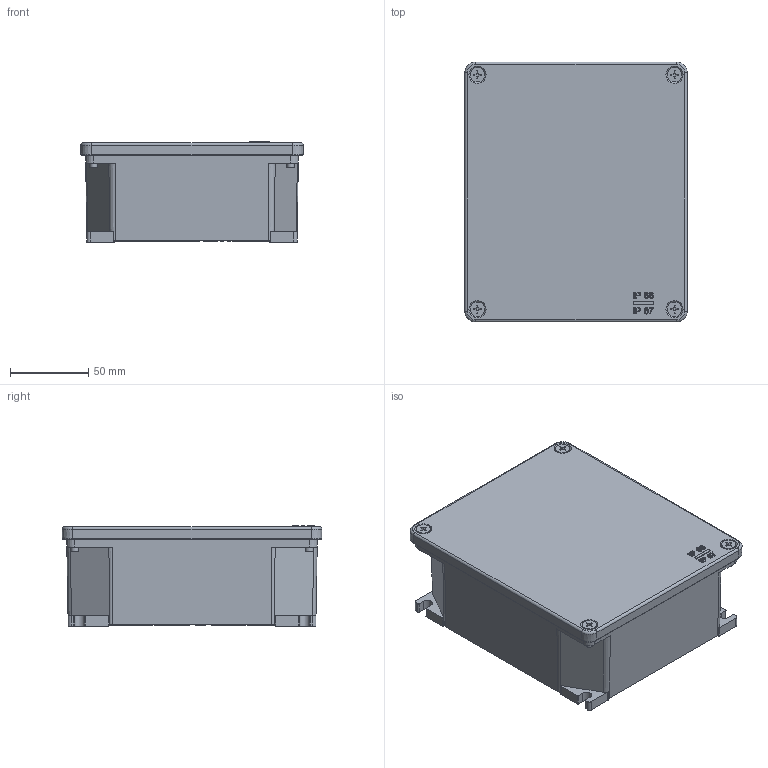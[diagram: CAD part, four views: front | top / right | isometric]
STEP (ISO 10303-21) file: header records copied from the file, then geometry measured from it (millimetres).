
FILE_DESCRIPTION(/* description */ (''),/* implementation_level */ '2;1');
FILE_NAME(/* name */ '4001357.stp',/* time_stamp */ '2020-06-25T08:00:06+02:00',/* author */ (''),/* organization */ (''),/* preprocessor_version */ 'ST-DEVELOPER v16.7',/* originating_system */ 'SIEMENS PLM Software NX 1892',/* authorisation */ '');
FILE_SCHEMA (('AUTOMOTIVE_DESIGN { 1 0 10303 214 3 1 1 1 }'));
Length unit declared in the file: millimetre
Products named in the file (1): RGGM1EF8B20Agwow
Bounding box: 142.25 x 166.25 x 64 mm (x, y, z)
Volume: 198857.6 mm3; surface area: 168874.5 mm2
Topology: 6 solids, 6 shells, 602 faces, 1592 edges, 1050 vertices
Faces by surface type: plane 391, cylinder 119, cone 68, torus 12, bspline 8, extrusion 3, sphere 1
Full cylindrical faces by diameter (mm): 1.68 x3, 4.826 x4, 5.5 x7, 6.5 x4, 9.3 x4, 9.6 x4, 10 x1
Entity records: 26865 total; most frequent: CARTESIAN_POINT 11794, ORIENTED_EDGE 3088, DIRECTION 3057, EDGE_CURVE 1544, VECTOR 1117, LINE 1114, VERTEX_POINT 1042, AXIS2_PLACEMENT_3D 970
